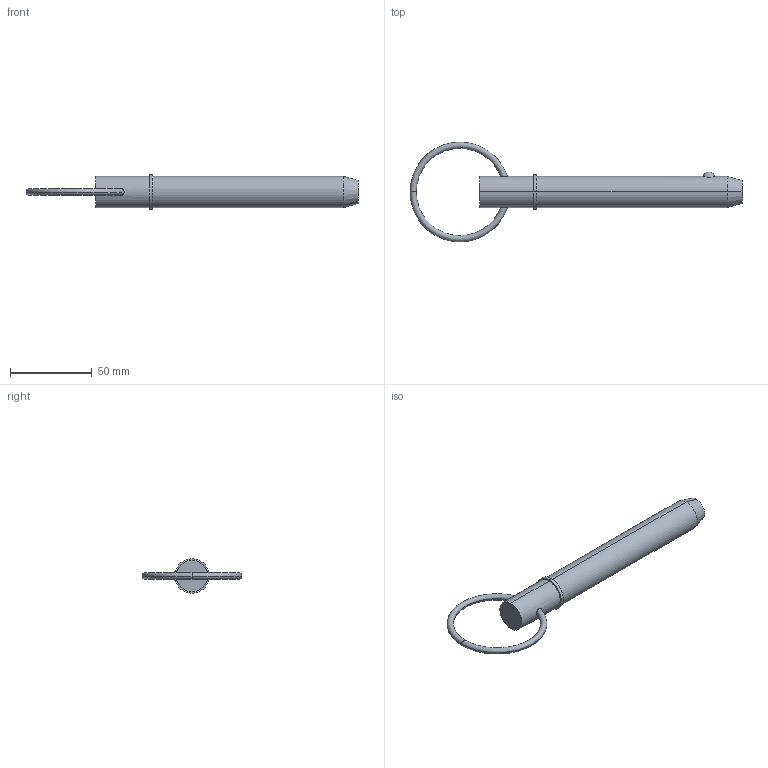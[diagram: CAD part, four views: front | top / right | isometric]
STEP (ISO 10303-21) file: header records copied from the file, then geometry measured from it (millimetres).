
FILE_DESCRIPTION (( 'STEP AP203' ), '1' );
FILE_NAME ('33014.W7540.step', '2024-11-04T08:35:52', ( '' ), ( '' ), 'SwSTEP 2.0', 'SolidWorks 2019', '' );
FILE_SCHEMA (( 'CONFIG_CONTROL_DESIGN' ));
Length unit declared in the file: millimetre
Products named in the file (3): Part2_33014.W7540; Part1_33014.W7540; 33014.W7540
Assembly tree (2 placements, depth 2):
  33014.W7540
    Part1_33014.W7540
    Part2_33014.W7540
Bounding box: 202.8 x 60.96 x 20.95 mm (x, y, z)
Volume: 47004.3 mm3; surface area: 12547.1 mm2
Topology: 2 solids, 2 shells, 22 faces, 43 edges, 26 vertices
Faces by surface type: torus 8, cylinder 6, plane 4, sphere 2, cone 2
Entity records: 1053 total; most frequent: CARTESIAN_POINT 276, DIRECTION 120, ORIENTED_EDGE 86, AXIS2_PLACEMENT_3D 56, EDGE_CURVE 43, CIRCLE 29, EDGE_LOOP 27, VERTEX_POINT 26
